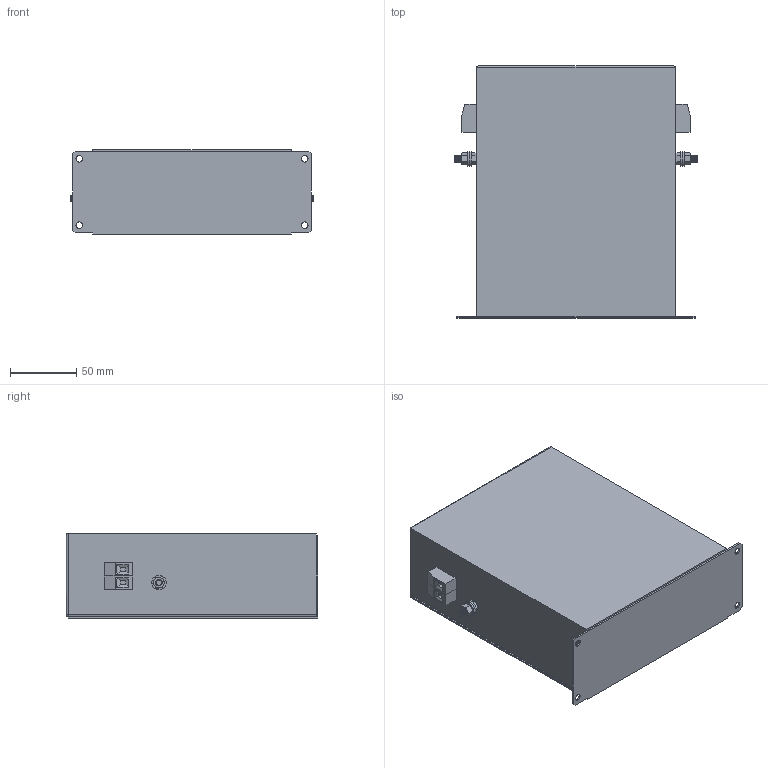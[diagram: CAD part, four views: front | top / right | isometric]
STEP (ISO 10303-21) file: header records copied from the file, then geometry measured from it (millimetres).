
FILE_DESCRIPTION (( 'STEP AP203' ), '1' );
FILE_NAME ('NF-16-1ph-DLR.STEP', '2024-07-08T15:54:37', ( '' ), ( '' ), 'SwSTEP 2.0', 'SolidWorks 2017', '' );
FILE_SCHEMA (( 'CONFIG_CONTROL_DESIGN' ));
Length unit declared in the file: millimetre
Products named in the file (8): VDFK-4; hex screw_am_B18.6.7M - M5 x 0.8 x 13 Indented HHMS --13S; NF-16-1ph-DLR; NF-S-422531-1; hex nut style 1_am_B18.2.4.1M - Hex nut, Style 1,  M5 x 0.8 --D-N; M5x13 Earth post; flat washer narrow_am_B18.22M - Plain washer, 5 mm, narrow; VDFK4x2
Assembly tree (11 placements, depth 3):
  NF-16-1ph-DLR
    NF-S-422531-1
    VDFK4x2  x2
      VDFK-4
    M5x13 Earth post  x2
      hex screw_am_B18.6.7M - M5 x 0.8 x 13 Indented HHMS --13S
      flat washer narrow_am_B18.22M - Plain washer, 5 mm, narrow
      hex nut style 1_am_B18.2.4.1M - Hex nut, Style 1,  M5 x 0.8 --D-N
Bounding box: 183.6 x 190 x 64 mm (x, y, z)
Volume: 1817797.8 mm3; surface area: 122765.1 mm2
Topology: 13 solids, 13 shells, 509 faces, 1249 edges, 784 vertices
Faces by surface type: plane 199, cone 176, cylinder 132, sphere 2
Entity records: 8062 total; most frequent: CARTESIAN_POINT 1354, DIRECTION 1306, ORIENTED_EDGE 1160, EDGE_CURVE 580, AXIS2_PLACEMENT_3D 514, VERTEX_POINT 362, VECTOR 278, LINE 278
